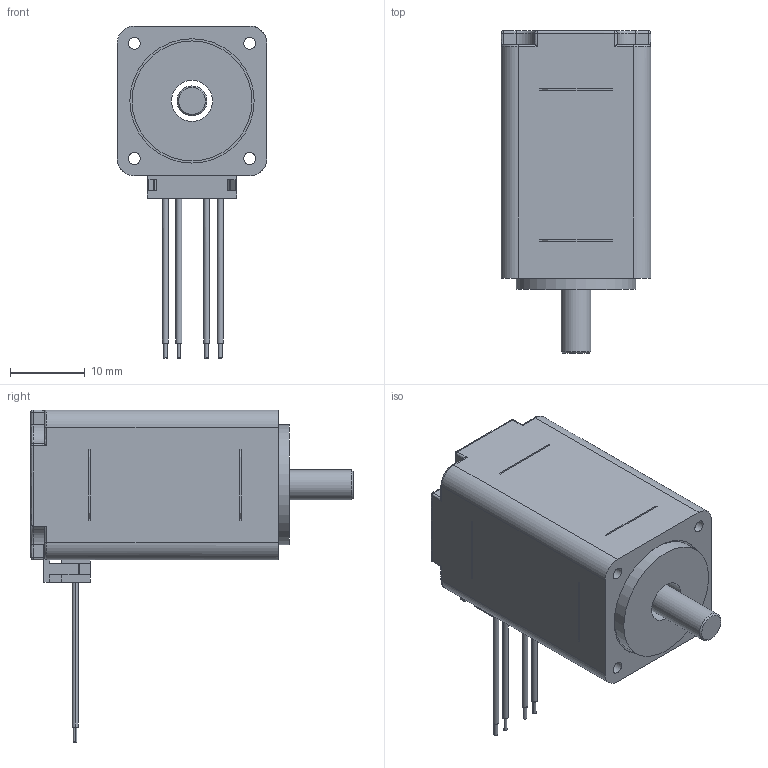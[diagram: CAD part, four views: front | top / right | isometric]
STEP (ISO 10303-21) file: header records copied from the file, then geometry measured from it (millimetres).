
FILE_DESCRIPTION( ('This file contains a STEP AP42 implementation' ,'as created by ZW3D STEP Interface translator.' ,'') ,'2;1' );
FILE_NAME( '20H33H-0604A-XXX.stp' ,'26 119.1724 6', (''), ('ZWCAD Software Co.'), 'Version 1.0', 'ZW3D to STEP translator', '' );
FILE_SCHEMA(('AUTOMOTIVE_DESIGN { 1 0 10303 214 1 1 1 1 }'));
Length unit declared in the file: millimetre
Products named in the file (1): 0
Bounding box: 20 x 43 x 44.32 mm (x, y, z)
Volume: 7623.2 mm3; surface area: 10771.9 mm2
Topology: 2 solids, 2 shells, 961 faces, 3045 edges, 1981 vertices
Faces by surface type: plane 618, cylinder 297, bspline 44, cone 2
Full cylindrical faces by diameter (mm): 0.67 x8, 1.6 x4, 2.2 x4, 4 x1, 5.5 x2, 7 x1, 9 x3, 12.24 x1, 12.5 x1, 16 x1, 16.6 x1
Entity records: 36641 total; most frequent: CARTESIAN_POINT 8450, ORIENTED_EDGE 6076, DIRECTION 5378, EDGE_CURVE 3038, VECTOR 2090, LINE 2090, VERTEX_POINT 1981, AXIS2_PLACEMENT_3D 1644
